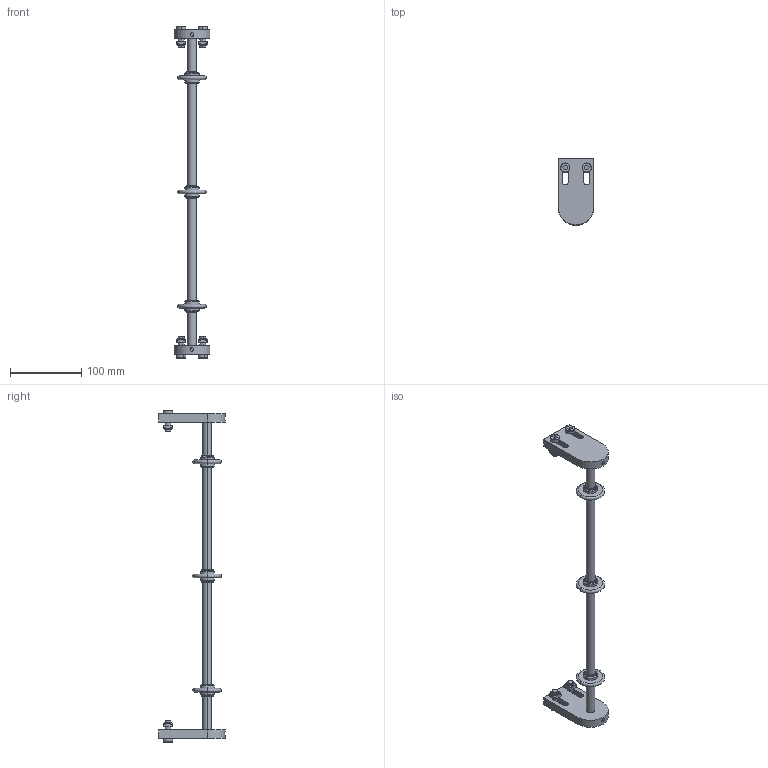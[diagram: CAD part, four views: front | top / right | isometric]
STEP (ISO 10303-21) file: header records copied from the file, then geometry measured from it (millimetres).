
FILE_DESCRIPTION (( 'STEP AP203' ), '1' );
FILE_NAME ('084.050.KSW.400.STEP', '2019-07-30T06:56:50', ( '' ), ( '' ), 'SwSTEP 2.0', 'SolidWorks 2018', '' );
FILE_SCHEMA (( 'CONFIG_CONTROL_DESIGN' ));
Length unit declared in the file: millimetre
Products named in the file (8): GRANI A PUNTA PIATTA UNI 5923_M6x16 UNI 5923; 084.301.000 VITI ALUSIC_084.301.004; 084.802.041; Parte359^084.050.KSW.400; Circlip DIN 471 - 12 x 1_Circlip DIN 471 - 12 x 1; 084.050.KSW.400; 084.802.030; 084.302.000 DADI ALUSIC 13x13-1_084.302.004
Assembly tree (22 placements, depth 2):
  084.050.KSW.400
    Parte359^084.050.KSW.400
    084.802.041  x3
    084.802.030  x2
    Circlip DIN 471 - 12 x 1_Circlip DIN 471 - 12 x 1  x6
    GRANI A PUNTA PIATTA UNI 5923_M6x16 UNI 5923  x2
    084.301.000 VITI ALUSIC_084.301.004  x4
    084.302.000 DADI ALUSIC 13x13-1_084.302.004  x4
Bounding box: 50 x 92.5 x 465 mm (x, y, z)
Volume: 174246.3 mm3; surface area: 64195.1 mm2
Topology: 22 solids, 22 shells, 420 faces, 1030 edges, 672 vertices
Faces by surface type: cylinder 178, plane 152, torus 38, cone 36, bspline 16
Entity records: 5214 total; most frequent: CARTESIAN_POINT 1121, DIRECTION 636, ORIENTED_EDGE 560, EDGE_CURVE 280, AXIS2_PLACEMENT_3D 251, VERTEX_POINT 182, EDGE_LOOP 138, LINE 134
